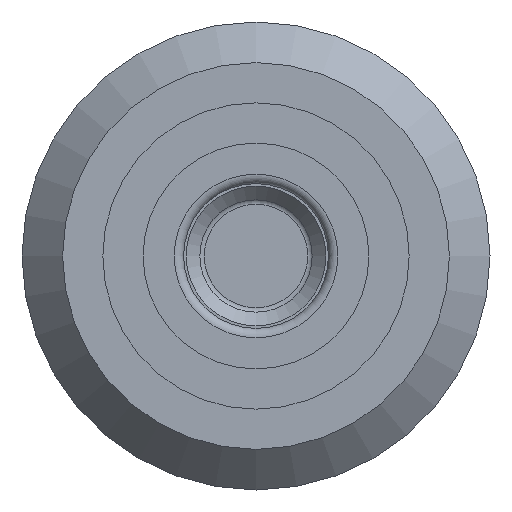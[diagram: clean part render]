
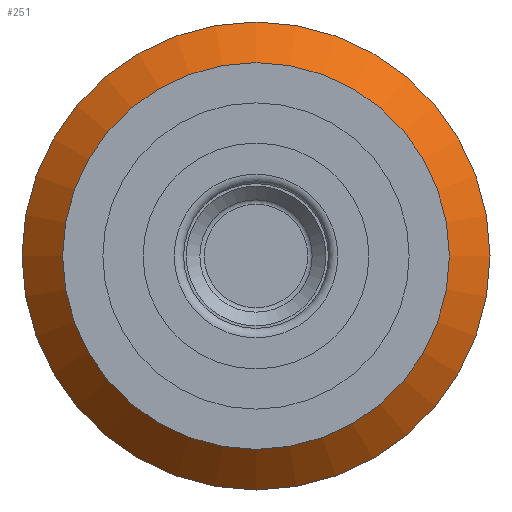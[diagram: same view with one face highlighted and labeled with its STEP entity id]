
A CAD part, left-side view. The second image highlights one B-rep face of the part: STEP entity #251.
In plain terms, the highlighted conical face has half-angle 45 degrees and reference radius 15.367 mm.
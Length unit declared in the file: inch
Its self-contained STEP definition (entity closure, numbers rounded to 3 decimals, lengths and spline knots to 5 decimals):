
#251 = ADVANCED_FACE( '', ( #520, #521 ), #522, .T. );
#520 = FACE_BOUND( '', #774, .T. );
#521 = FACE_OUTER_BOUND( '', #775, .T. );
#522 = CONICAL_SURFACE( '', #776, 0.605, 0.785 );
#774 = EDGE_LOOP( '', ( #1186 ) );
#775 = EDGE_LOOP( '', ( #1187 ) );
#776 = AXIS2_PLACEMENT_3D( '', #1188, #1189, #1190 );
#1186 = ORIENTED_EDGE( '', *, *, #1320, .T. );
#1187 = ORIENTED_EDGE( '', *, *, #1256, .F. );
#1188 = CARTESIAN_POINT( '', ( -0.114, 0., 0. ) );
#1189 = DIRECTION( '', ( 1., 0., 0. ) );
#1190 = DIRECTION( '', ( 0., 0., -1. ) );
#1256 = EDGE_CURVE( '', #1427, #1427, #1428, .T. );
#1320 = EDGE_CURVE( '', #1528, #1528, #1529, .T. );
#1427 = VERTEX_POINT( '', #1672 );
#1428 = CIRCLE( '', #1673, 0.605 );
#1528 = VERTEX_POINT( '', #1813 );
#1529 = CIRCLE( '', #1814, 0.5 );
#1672 = CARTESIAN_POINT( '', ( -0.114, 0., -0.605 ) );
#1673 = AXIS2_PLACEMENT_3D( '', #2008, #2009, #2010 );
#1813 = CARTESIAN_POINT( '', ( -0.219, 0., -0.5 ) );
#1814 = AXIS2_PLACEMENT_3D( '', #2101, #2102, #2103 );
#2008 = CARTESIAN_POINT( '', ( -0.114, 0., 0. ) );
#2009 = DIRECTION( '', ( 1., 0., 0. ) );
#2010 = DIRECTION( '', ( 0., 0., -1. ) );
#2101 = CARTESIAN_POINT( '', ( -0.219, 0., 0. ) );
#2102 = DIRECTION( '', ( 1., 0., 0. ) );
#2103 = DIRECTION( '', ( 0., 0., -1. ) );
